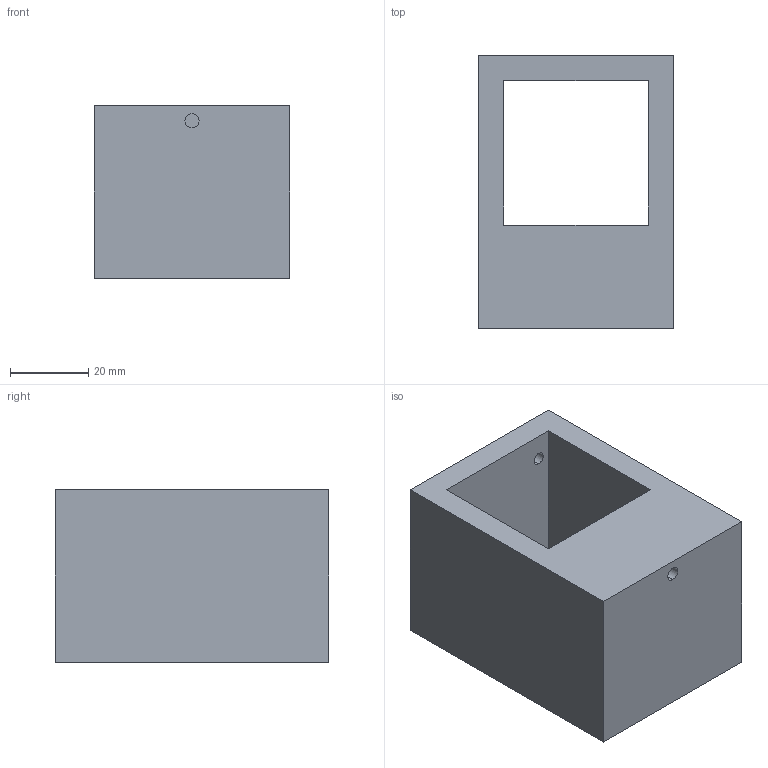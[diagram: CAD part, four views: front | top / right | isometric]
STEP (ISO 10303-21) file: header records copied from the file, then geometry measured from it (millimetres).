
FILE_DESCRIPTION (( 'STEP AP203' ), '1' );
FILE_NAME ('3D-CO40.STEP', '2019-08-09T08:02:24', ( '' ), ( '' ), 'SwSTEP 2.0', 'SolidWorks 2018', '' );
FILE_SCHEMA (( 'CONFIG_CONTROL_DESIGN' ));
Length unit declared in the file: millimetre
Products named in the file (1): 3D-CO40
Bounding box: 50 x 70 x 44 mm (x, y, z)
Volume: 93439.8 mm3; surface area: 21648.2 mm2
Topology: 1 solids, 1 shells, 21 faces, 54 edges, 36 vertices
Faces by surface type: plane 11, cylinder 10
Entity records: 745 total; most frequent: DIRECTION 118, CARTESIAN_POINT 112, ORIENTED_EDGE 108, EDGE_CURVE 54, AXIS2_PLACEMENT_3D 42, VERTEX_POINT 36, LINE 34, VECTOR 34
